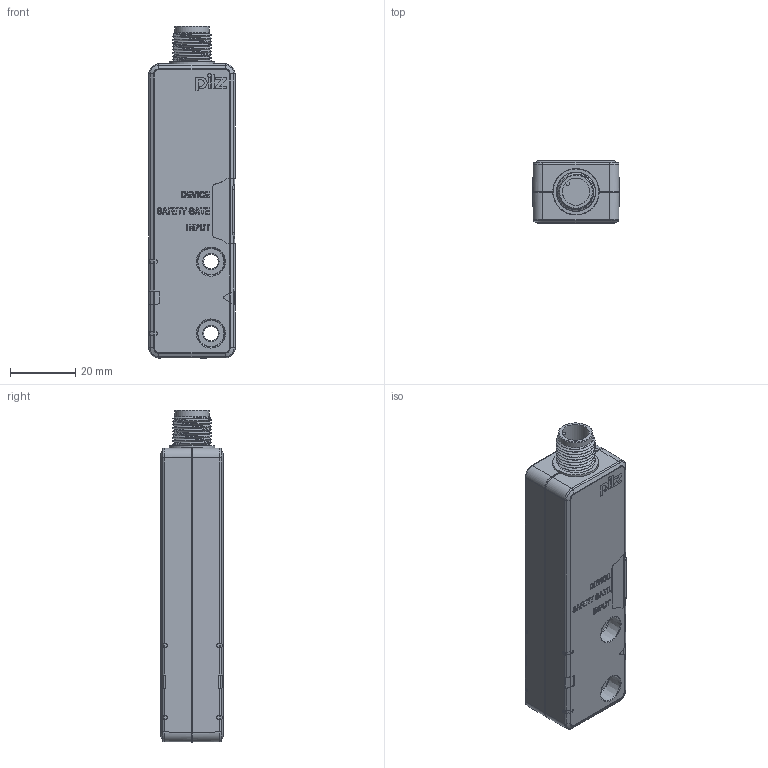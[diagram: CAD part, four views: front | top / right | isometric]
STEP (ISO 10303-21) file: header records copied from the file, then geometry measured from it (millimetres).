
FILE_DESCRIPTION((''),'2;1');
FILE_NAME('D:\_Vault\Workspace\Projektordner\Sensoren\PSENcsII\Kundendaten\H303910_A_PSENcsII_M12_switch.stp','2014-09-08T11:38:01',('aschlecht'),(''),'Autodesk Inventor 2013','Autodesk Inventor 2013','');
FILE_SCHEMA(('CONFIG_CONTROL_DESIGN'));
Length unit declared in the file: millimetre
Products named in the file (1): H303910_PSENcsII_M12_switch
Bounding box: 26.4 x 19.04 x 101.6 mm (x, y, z)
Volume: 43814.4 mm3; surface area: 10548.1 mm2
Topology: 1 solids, 1 shells, 1048 faces, 2877 edges, 1900 vertices
Faces by surface type: plane 493, bspline 401, cylinder 131, torus 12, cone 11
Full cylindrical faces by diameter (mm): 1.1 x2, 8.3 x1, 10.5 x1, 14 x1
Entity records: 39669 total; most frequent: CARTESIAN_POINT 14884, ORIENTED_EDGE 5686, DIRECTION 3633, EDGE_CURVE 2843, VERTEX_POINT 1894, VECTOR 1743, LINE 1743, EDGE_LOOP 1147
